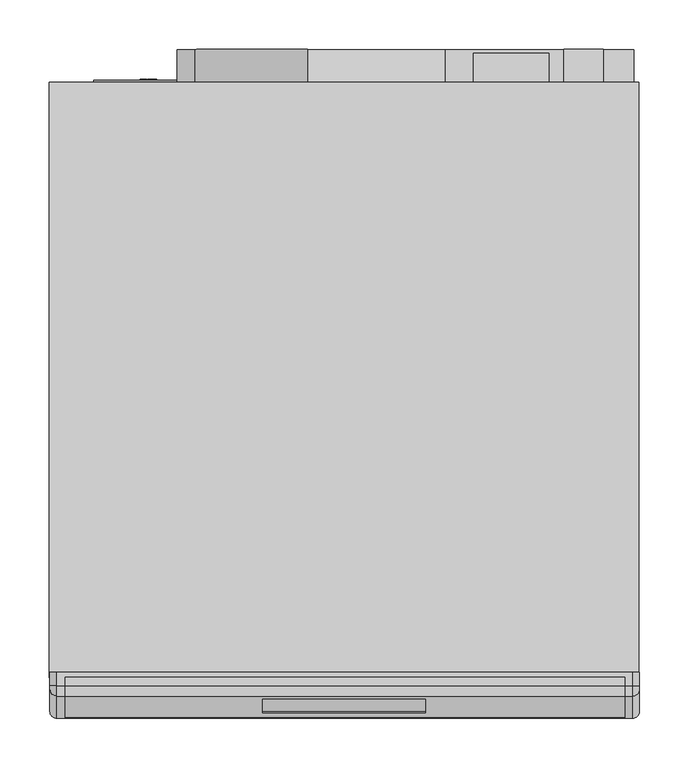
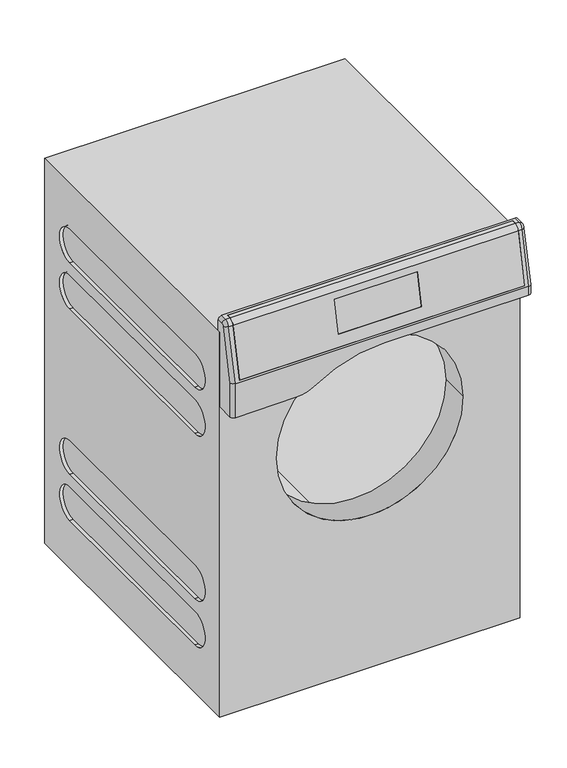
"""IFC4 building model written with IfcOpenShell, lengths in millimetres: proxy geometry, 12752390_B_PDR508ROPEL_LW : 52508362_B_12752390_PDR508ROPEL_LW."""

from ifc_helpers import new_model, si_unit, point, frame, frame_2d, origin, origin_with_axes, place, context, project, spatial, polyline, circle_curve, ellipse_curve, trimmed, segment, composite_curve, outline, extrude, source, transform, mapped, element, save
from ifc_brep_helpers import plane_surface, cylinder_surface, revolved_surface, advanced_brep


def specialty_equipment_5726b327(model_context):
    return source(origin(), model_context, "Body", "SolidModel", [
        advanced_brep(
        [(284.0, -653.5042463, 835.7290958), (284.0, -643.9845398, 843.6465521), (284.0, -635.5, 843.8687276), (284.0, -635.5, 844.8690704), (284.0, -644.0107168, 844.6462094), (284.0, -654.4823939, 835.9370075), (284.0, -676.1497738, 734.0), (284.0, -675.1274332, 734.0), (-282.0, -653.5042463, 835.7290958), (-282.0, -675.1274332, 734.0), (-282.0, -676.1497738, 734.0), (-282.0, -654.4823939, 835.9370075), (-282.0, -644.0107168, 844.6462094), (-282.0, -635.5, 844.8690704), (-282.0, -635.5, 843.8687276), (-282.0, -643.9845398, 843.6465521), (82.5, -657.4447963, 822.0), (82.5, -671.2609728, 757.0), (-82.5, -671.2609728, 757.0), (-82.5, -657.4447963, 822.0), (82.5, -670.2386322, 757.0), (82.5, -656.4224557, 822.0), (-82.5, -656.4224557, 822.0), (-82.5, -670.2386322, 757.0)],
        [
            (0, 1, circle_curve(frame((284.0, -643.7227703, 833.6499789), z_axis=(-1.0, 0.0, 0.0), x_axis=(0.0, 1.0, 0.0)), 10.0)),
            (1, 2),
            (2, 3),
            (3, 4),
            (4, 5, circle_curve(frame((284.0, -643.7227703, 833.6499789), z_axis=(1.0, 0.0, 0.0), x_axis=(0.0, 1.0, 0.0)), 11.0)),
            (5, 6),
            (6, 7),
            (7, 0),
            (8, 9),
            (9, 10),
            (10, 11),
            (11, 12, circle_curve(frame((-282.0, -643.7227703, 833.6499789), z_axis=(-1.0, 0.0, 0.0), x_axis=(0.0, 1.0, 0.0)), 11.0)),
            (12, 13),
            (13, 14),
            (14, 15),
            (15, 8, circle_curve(frame((-282.0, -643.7227703, 833.6499789), z_axis=(1.0, 0.0, 0.0), x_axis=(0.0, 1.0, 0.0)), 10.0)),
            (0, 8),
            (15, 1),
            (14, 2),
            (13, 3),
            (12, 4),
            (11, 5),
            (10, 6),
            (16, 17),
            (17, 18),
            (18, 19),
            (19, 16),
            (9, 7),
            (20, 21),
            (21, 22),
            (22, 23),
            (23, 20),
            (20, 17),
            (16, 21),
            (22, 19),
            (18, 23),
        ],
        [
            plane_surface(frame((284.0, -633.7227703, 833.6499789), z_axis=(1.0, 0.0, 0.0), x_axis=(0.0, 0.0, -1.0))),
            plane_surface(frame((-282.0, -633.7227703, 833.6499789), z_axis=(-1.0, 0.0, 0.0), x_axis=(0.0, 0.0, 1.0))),
            revolved_surface(polyline([(-282.0, -633.7227703, 833.6499789), (284.0, -633.7227703, 833.6499789)]), (-282.0, -643.7227703, 833.6499789), (-1.0, 0.0, 0.0)),
            plane_surface(frame((284.0, -643.9845398, 843.6465521), z_axis=(0.0, 0.026176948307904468, -0.9996573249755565), x_axis=(-1.0, 0.0, 0.0))),
            plane_surface(frame((284.0, -635.5, 843.8687276), z_axis=(0.0, 1.0, 0.0), x_axis=(-1.0, 0.0, 0.0))),
            plane_surface(frame((284.0, -635.5, 844.8690704), z_axis=(0.0, -0.026176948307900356, 0.9996573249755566), x_axis=(-1.0, 0.0, 0.0))),
            cylinder_surface(frame((-282.0, -643.7227703, 833.6499789), z_axis=(1.0, 0.0, 0.0), x_axis=(0.0, 1.0, 0.0)), 11.0),
            plane_surface(frame((284.0, -654.4823939, 835.9370075), z_axis=(0.0, -0.9781476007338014, 0.20791169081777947), x_axis=(-1.0, 0.0, 0.0))),
            plane_surface(frame((284.0, -676.1497738, 734.0), z_axis=(0.0, 0.0, -1.0), x_axis=(-1.0, 0.0, 0.0))),
            plane_surface(frame((284.0, -675.1274332, 734.0), z_axis=(0.0, 0.9781476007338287, -0.20791169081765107), x_axis=(-1.0, 0.0, 0.0))),
            plane_surface(frame((82.5, -657.4447963, 822.0), z_axis=(-1.0, 0.0, 0.0), x_axis=(0.0, -1.0, 0.0))),
            plane_surface(frame((-82.5, -657.4447963, 822.0), z_axis=(1.0, 0.0, 0.0), x_axis=(0.0, 1.0, 0.0))),
            plane_surface(frame((82.5, -656.4224557, 822.0), z_axis=(0.0, 0.0, -1.0), x_axis=(-1.0, 0.0, 0.0))),
            plane_surface(frame((82.5, -671.2609728, 757.0), z_axis=(0.0, 0.0, 1.0), x_axis=(-1.0, 0.0, 0.0))),
        ],
        [
            (0, [[1, 2, 3, 4, 5, 6, 7, 8]]),
            (1, [[9, 10, 11, 12, 13, 14, 15, 16]]),
            (2, [[-1, 17, -16, 18]]),
            (3, [[-2, -18, -15, 19]]),
            (4, [[-3, -19, -14, 20]]),
            (5, [[-4, -20, -13, 21]]),
            (6, [[-5, -21, -12, 22]]),
            (7, [[-6, -22, -11, 23], [24, 25, 26, 27]]),
            (8, [[-7, -23, -10, 28]]),
            (9, [[-8, -28, -9, -17], [29, 30, 31, 32]]),
            (10, [[33, -24, 34, -29]]),
            (11, [[35, -26, 36, -31]]),
            (12, [[-34, -27, -35, -30]]),
            (13, [[-33, -32, -36, -25]]),
        ],
    ),
        advanced_brep(
        [(298.5, -636.0, 815.0), (298.5, -630.5, 815.0), (298.5, -630.5, 837.9976005), (298.5, -643.8274781, 837.6486082), (298.5, -647.6353607, 834.4816256), (298.5, -670.0, 729.2642704), (298.5, -670.0, 712.0), (298.5, -636.0, 712.0), (-297.5, -636.0, 815.0), (-297.5, -636.0, 659.0), (-297.5, -670.0, 659.0), (-297.5, -670.0, 729.2642704), (-297.5, -647.6353607, 834.4816256), (-297.5, -643.8274781, 837.6486082), (-297.5, -630.5, 837.9976005), (-297.5, -630.5, 815.0), (-290.5, -630.5, 845.0), (291.5, -630.5, 845.0), (284.0, -635.5, 844.8690704), (284.0, -644.0107168, 844.6462094), (291.5, -644.0107168, 844.6462094), (-290.5, -644.0107168, 844.6462094), (-282.0, -644.0107168, 844.6462094), (-282.0, -635.5, 844.8690704), (284.0, -654.4823939, 835.9370075), (291.5000074, -654.4823939, 835.9370075), (-282.0, -654.4823939, 835.9370075), (-290.5, -654.4823939, 835.9370075), (284.0, -676.1497738, 734.0), (-282.0, -676.1497738, 734.0), (-290.5, -677.0, 730.0), (291.5, -677.0, 730.0), (-290.5, -677.0, 659.0), (-170.6302935, -677.0, 659.0), (-135.780818, -677.0, 669.5165354), (5.0, -677.0, 712.0), (291.5, -677.0, 712.0), (-170.6302935, -636.0, 659.0), (5.0, -636.0, 712.0), (-135.780818, -636.0, 669.5165354), (284.0, -635.5, 843.8687276), (284.0, -643.9845398, 843.6465521), (284.0, -653.5042463, 835.7290958), (284.0, -675.1274332, 734.0), (-282.0, -675.1274332, 734.0), (-282.0, -653.5042463, 835.7290958), (-282.0, -643.9845398, 843.6465521), (-282.0, -635.5, 843.8687276)],
        [
            (0, 1),
            (1, 2),
            (2, 3),
            (3, 4, circle_curve(frame((298.5, -643.7227703, 833.6499789), z_axis=(1.0, 0.0, 0.0), x_axis=(0.0, -0.02617694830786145, 0.9996573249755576)), 4.0)),
            (4, 5),
            (5, 6),
            (6, 7),
            (7, 0),
            (8, 9),
            (9, 10),
            (10, 11),
            (11, 12),
            (12, 13, circle_curve(frame((-297.5, -643.7227703, 833.6499789), z_axis=(-1.0, 0.0, 0.0), x_axis=(0.0, -0.9781476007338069, 0.20791169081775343)), 4.0)),
            (13, 14),
            (14, 15),
            (15, 8),
            (0, 8),
            (15, 1),
            (14, 16, ellipse_curve(frame((-290.5, -630.5, 837.9976005), z_axis=(0.0, 1.0, 0.0), x_axis=(0.0, 0.0, 0.9999999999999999)), 7.0023995, 7.0)),
            (16, 17),
            (17, 2, ellipse_curve(frame((291.5, -630.5, 837.9976005), z_axis=(0.0, 1.0, 0.0), x_axis=(0.0, 0.0, -1.0)), 7.0023995, 7.0)),
            (18, 19),
            (19, 20),
            (20, 17),
            (16, 21),
            (21, 22),
            (22, 23),
            (23, 18),
            (19, 24, circle_curve(frame((284.0, -643.7227703, 833.6499789), z_axis=(1.0, 0.0, 0.0), x_axis=(0.0, 1.0, 0.0)), 11.0)),
            (24, 25),
            (25, 20, circle_curve(frame((291.5, -643.7227703, 833.6499789), z_axis=(-1.0, 0.0, 0.0), x_axis=(0.0, 1.0, 0.0)), 11.0)),
            (26, 22, circle_curve(frame((-282.0, -643.7227703, 833.6499789), z_axis=(-1.0, 0.0, 0.0), x_axis=(0.0, 1.0, 0.0)), 11.0)),
            (21, 27, circle_curve(frame((-290.5, -643.7227703, 833.6499789), z_axis=(1.0, 0.0, 0.0), x_axis=(0.0, 1.0, 0.0)), 11.0)),
            (27, 26),
            (24, 28),
            (28, 29),
            (29, 26),
            (27, 30),
            (30, 31),
            (31, 25),
            (30, 32),
            (32, 33),
            (33, 34, circle_curve(frame((-170.6302935, -677.0, 722.0), z_axis=(0.0, -1.0, 0.0), x_axis=(1.0, 0.0, 0.0)), 63.0)),
            (34, 35, circle_curve(frame((5.0, -677.0, 457.5), z_axis=(0.0, 1.0, 0.0), x_axis=(1.0, 0.0, 0.0)), 254.5)),
            (35, 36),
            (36, 31),
            (9, 37),
            (37, 33),
            (32, 10, circle_curve(frame((-290.5, -670.0, 659.0), z_axis=(0.0, 0.0, -1.0), x_axis=(0.0, 1.0, 0.0)), 7.0)),
            (7, 38),
            (38, 39, circle_curve(frame((5.0, -636.0, 457.5), z_axis=(0.0, -1.0, 0.0), x_axis=(1.0, 0.0, 0.0)), 254.5)),
            (39, 37, circle_curve(frame((-170.6302935, -636.0, 722.0), z_axis=(0.0, 1.0, 0.0), x_axis=(1.0, 0.0, 0.0)), 63.0)),
            (18, 40),
            (40, 41),
            (41, 42, circle_curve(frame((284.0, -643.7227703, 833.6499789), z_axis=(1.0, 0.0, 0.0), x_axis=(0.0, 1.0, 0.0)), 10.0)),
            (42, 43),
            (43, 28),
            (29, 44),
            (44, 45),
            (45, 46, circle_curve(frame((-282.0, -643.7227703, 833.6499789), z_axis=(-1.0, 0.0, 0.0), x_axis=(0.0, 1.0, 0.0)), 10.0)),
            (46, 47),
            (47, 23),
            (43, 44),
            (42, 45),
            (41, 46),
            (40, 47),
            (30, 11, ellipse_curve(frame((-290.5, -670.0, 729.2642704), z_axis=(0.0, -0.10452846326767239, -0.9945218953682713), x_axis=(0.0, -0.9945218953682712, 0.1045284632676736)), 7.038558, 7.0)),
            (27, 12, circle_curve(frame((-290.5, -647.6353607, 834.4816256), z_axis=(0.0, -0.20791169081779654, -0.9781476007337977), x_axis=(0.0, 0.9781476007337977, -0.20791169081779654)), 7.0)),
            (21, 13, circle_curve(frame((-290.5, -643.8274781, 837.6486082), z_axis=(0.0, -0.9996573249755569, -0.026176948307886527), x_axis=(0.0, 0.026176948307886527, -0.9996573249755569)), 7.0)),
            (20, 3, circle_curve(frame((291.5, -643.8274781, 837.6486082), z_axis=(0.0, 0.9996573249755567, 0.026176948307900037), x_axis=(1.0, 0.0, 0.0)), 7.0)),
            (25, 4, circle_curve(frame((291.5, -647.6353607, 834.4816256), z_axis=(0.0, 0.2079116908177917, 0.9781476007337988), x_axis=(1.0, 0.0, 0.0)), 7.0)),
            (31, 5, ellipse_curve(frame((291.5, -670.0, 729.2642704), z_axis=(0.0, 0.10452846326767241, 0.9945218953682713), x_axis=(0.0, -0.9945218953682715, 0.10452846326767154)), 7.038558, 7.0)),
            (36, 6, circle_curve(frame((291.5, -670.0, 712.0), z_axis=(0.0, 0.0, 1.0), x_axis=(1.0, 0.0, 0.0)), 7.0)),
            (35, 38),
            (34, 39),
        ],
        [
            plane_surface(frame((298.5, -630.5, 815.0), z_axis=(1.0, 0.0, 0.0), x_axis=(0.0, 1.0, 0.0))),
            plane_surface(frame((-297.5, -630.5, 815.0), z_axis=(-1.0, 0.0, 0.0), x_axis=(0.0, -1.0, 0.0))),
            plane_surface(frame((298.5, -636.0, 815.0), z_axis=(0.0, 0.0, -1.0), x_axis=(-1.0, 0.0, 0.0))),
            plane_surface(frame((298.5, -630.5, 815.0), z_axis=(0.0, 1.0, 0.0), x_axis=(-1.0, 0.0, 0.0))),
            plane_surface(frame((298.5, -630.5, 845.0), z_axis=(0.0, -0.026176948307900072, 0.9996573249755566), x_axis=(-1.0, 0.0, 0.0))),
            cylinder_surface(frame((-297.5, -643.7227703, 833.6499789), z_axis=(1.0, 0.0, 0.0), x_axis=(0.0, 1.0, 0.0)), 11.0),
            plane_surface(frame((298.5, -654.4823939, 835.9370075), z_axis=(0.0, -0.9781476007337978, 0.20791169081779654), x_axis=(-1.0, 0.0, 0.0))),
            plane_surface(frame((298.5, -677.0, 730.0), z_axis=(0.0, -1.0, 0.0), x_axis=(-1.0, 0.0, 0.0))),
            plane_surface(frame((298.5, -677.0, 659.0), z_axis=(0.0, 0.0, -1.0), x_axis=(-1.0, 0.0, 0.0))),
            plane_surface(frame((298.5, -636.0, 659.0), z_axis=(0.0, 1.0, 0.0), x_axis=(-1.0, 0.0, 0.0))),
            plane_surface(frame((284.0, -676.1497738, 734.0), z_axis=(-1.0, 0.0, 0.0), x_axis=(0.0, 1.0, 0.0))),
            plane_surface(frame((-282.0, -676.1497738, 734.0), z_axis=(1.0, 0.0, 0.0), x_axis=(0.0, -1.0, 0.0))),
            plane_surface(frame((284.0, -676.1497738, 734.0), z_axis=(0.0, 0.0, 1.0), x_axis=(-1.0, 0.0, 0.0))),
            plane_surface(frame((284.0, -675.1274332, 734.0), z_axis=(0.0, -0.9781476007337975, 0.20791169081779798), x_axis=(-1.0, 0.0, 0.0))),
            cylinder_surface(frame((-282.0, -643.7227703, 833.6499789), z_axis=(-1.0, 0.0, 0.0), x_axis=(0.0, 1.0, 0.0)), 10.0),
            plane_surface(frame((284.0, -643.9845398, 843.6465521), z_axis=(0.0, -0.026176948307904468, 0.9996573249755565), x_axis=(-1.0, 0.0, 0.0))),
            plane_surface(frame((284.0, -635.5, 843.8687276), z_axis=(0.0, -1.0, 0.0), x_axis=(-1.0, 0.0, 0.0))),
            cylinder_surface(frame((-290.5, -670.0, 659.0), z_axis=(0.0, 0.0, 1.0), x_axis=(0.0, 1.0, 0.0)), 7.0),
            cylinder_surface(frame((-290.5, -670.1529668, 728.5446182), z_axis=(0.0, 0.20791169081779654, 0.9781476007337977), x_axis=(0.0, 0.9781476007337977, -0.20791169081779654)), 7.0),
            revolved_surface(trimmed(ellipse_curve(frame((-290.5, -647.6353607, 834.4816256), z_axis=(0.0, -0.2079116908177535, -0.9781476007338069), x_axis=(0.0, 0.9781476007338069, -0.2079116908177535)), 7.0, 7.0), [point((-290.5, -654.4823939, 835.9370075))], [point((-297.5, -647.6353607, 834.4816256))], True, "CARTESIAN"), (-297.5, -643.7227703, 833.6499789), (-1.0, 0.0, 0.0)),
            cylinder_surface(frame((-290.5, -643.8274781, 837.6486082), z_axis=(0.0, 0.9996573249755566, 0.026176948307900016), x_axis=(0.0, 0.026176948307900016, -0.9996573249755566)), 7.0),
            cylinder_surface(frame((291.5, -630.3167614, 838.0023987), z_axis=(0.0, -0.9996573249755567, -0.026176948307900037), x_axis=(1.0, 0.0, 0.0)), 7.0),
            revolved_surface(trimmed(ellipse_curve(frame((291.5, -643.8274781, 837.6486082), z_axis=(0.0, 0.9996573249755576, 0.026176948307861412), x_axis=(1.0, 0.0, 0.0)), 7.0, 7.0), [point((291.5, -644.0107168, 844.6462094))], [point((298.5, -643.8274781, 837.6486082))], True, "CARTESIAN"), (298.5, -643.7227703, 833.6499789), (1.0, 0.0, 0.0)),
            cylinder_surface(frame((291.5, -647.6353607, 834.4816256), z_axis=(0.0, -0.20791169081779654, -0.9781476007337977), x_axis=(1.0, 0.0, 0.0)), 7.0),
            cylinder_surface(frame((291.5, -670.0, 730.0), z_axis=(0.0, 0.0, -1.0), x_axis=(1.0, 0.0, 0.0)), 7.0),
            plane_surface(frame((298.5, -677.0, 712.0), z_axis=(0.0, 0.0, -1.0), x_axis=(0.0, 1.0, 0.0))),
            revolved_surface(polyline([(259.5, -677.0, 457.5), (259.5, -636.0, 457.5)]), (5.0, -636.0, 457.5), (0.0, -1.0, 0.0)),
            cylinder_surface(frame((-170.6302935, -636.0, 722.0), z_axis=(0.0, 1.0, 0.0), x_axis=(1.0, 0.0, 0.0)), 63.0),
        ],
        [
            (0, [[1, 2, 3, 4, 5, 6, 7, 8]]),
            (1, [[9, 10, 11, 12, 13, 14, 15, 16]]),
            (2, [[-1, 17, -16, 18]]),
            (3, [[-18, -15, 19, 20, 21, -2]]),
            (4, [[22, 23, 24, -20, 25, 26, 27, 28]]),
            (5, [[29, 30, 31, -23]]),
            (5, [[32, -26, 33, 34]]),
            (6, [[35, 36, 37, -34, 38, 39, 40, -30]]),
            (7, [[41, 42, 43, 44, 45, 46, -39]]),
            (8, [[-10, 47, 48, -42, 49]]),
            (9, [[-9, -17, -8, 50, 51, 52, -47]]),
            (10, [[53, 54, 55, 56, 57, -35, -29, -22]]),
            (11, [[58, 59, 60, 61, 62, -27, -32, -37]]),
            (12, [[-57, 63, -58, -36]]),
            (13, [[-56, 64, -59, -63]]),
            (14, [[-55, 65, -60, -64]]),
            (15, [[-54, 66, -61, -65]]),
            (16, [[-53, -28, -62, -66]]),
            (17, [[67, -11, -49, -41]]),
            (18, [[-67, -38, 68, -12]]),
            (19, [[-68, -33, 69, -13]]),
            (20, [[-69, -25, -19, -14]]),
            (21, [[70, -3, -21, -24]]),
            (22, [[-70, -31, 71, -4]]),
            (23, [[-71, -40, 72, -5]]),
            (24, [[-72, -46, 73, -6]]),
            (25, [[74, -50, -7, -73, -45]]),
            (26, [[-74, -44, 75, -51]]),
            (27, [[-75, -43, -48, -52]]),
        ],
    ),
        extrude(outline(polyline([(-255.0, -34.0), (-209.0, -34.0), (-209.0, -35.0), (-255.0, -35.0), (-255.0, -34.0)])), frame((0.0, 0.0, 702.0), z_axis=(0.0, 0.0, 1.0), x_axis=(1.0, 0.0, 0.0)), (0.0, 0.0, 1.0), 91.0),
        extrude(outline(polyline([(81.9970141, 205.2110284), (81.9970141, 206.55391), (92.0465116, 202.5369367), (92.0465116, 201.4671972), (82.0001609, 197.4576916), (82.0001609, 198.7850496), (85.139586, 199.9365916), (85.139586, 204.0715681), (81.9970141, 205.2110284)]), holes=[polyline([(86.3975329, 200.3962857), (90.7905211, 202.0029406), (86.3975329, 203.5957875), (86.3975329, 200.3962857)])]), frame((0.0, -32.0, 0.0), z_axis=(0.0, 1.0, 0.0), x_axis=(0.0, 0.0, 1.0)), (0.0, 0.0, 1.0), 1.0),
        extrude(outline(polyline([(92.0465116, 194.8537288), (83.2572828, 194.8537288), (83.2572828, 189.8537288), (82.0001609, 189.8537288), (82.0001609, 196.1151094), (92.0465116, 196.1151094), (92.0465116, 194.8537288)])), frame((0.0, -32.0, 0.0), z_axis=(0.0, 1.0, 0.0), x_axis=(0.0, 0.0, 1.0)), (0.0, 0.0, 1.0), 1.0),
        extrude(outline(polyline([(81.9970141, -190.7889716), (81.9970141, -189.44609), (92.0465116, -193.4630633), (92.0465116, -194.5328028), (82.0001609, -198.5423084), (82.0001609, -197.2149504), (85.139586, -196.0634084), (85.139586, -191.9284319), (81.9970141, -190.7889716)]), holes=[polyline([(86.3975329, -195.6037143), (90.7905211, -193.9970594), (86.3975329, -192.4042125), (86.3975329, -195.6037143)])]), frame((0.0, -32.0, 0.0), z_axis=(0.0, 1.0, 0.0), x_axis=(0.0, 0.0, 1.0)), (0.0, 0.0, 1.0), 1.0),
        extrude(outline(polyline([(92.0465116, -201.1462712), (83.2572828, -201.1462712), (83.2572828, -206.1462712), (82.0001609, -206.1462712), (82.0001609, -199.8848906), (92.0465116, -199.8848906), (92.0465116, -201.1462712)])), frame((0.0, -32.0, 0.0), z_axis=(0.0, 1.0, 0.0), x_axis=(0.0, 0.0, 1.0)), (0.0, 0.0, 1.0), 1.0),
        extrude(outline(composite_curve([segment(trimmed(circle_curve(frame_2d((87.0, 198.0)), 55.25), [point((87.0, 253.25))], [point((87.0, 142.75))], False, "CARTESIAN"), True, "CONTINUOUS"), segment(trimmed(circle_curve(frame_2d((87.0, 198.0)), 55.25), [point((87.0, 142.75))], [point((87.0, 253.25))], False, "CARTESIAN"), True, "CONTINUOUS")], self_intersect=False)), frame((0.0, -34.0, 0.0), z_axis=(0.0, 1.0, 0.0), x_axis=(0.0, 0.0, 1.0)), (0.0, 0.0, 1.0), 2.0),
        extrude(outline(composite_curve([segment(trimmed(circle_curve(frame_2d((87.0, -198.0)), 55.25), [point((87.0, -142.75))], [point((87.0, -253.25))], False, "CARTESIAN"), True, "CONTINUOUS"), segment(trimmed(circle_curve(frame_2d((87.0, -198.0)), 55.25), [point((87.0, -253.25))], [point((87.0, -142.75))], False, "CARTESIAN"), True, "CONTINUOUS")], self_intersect=False)), frame((0.0, -34.0, 0.0), z_axis=(0.0, 1.0, 0.0), x_axis=(0.0, 0.0, 1.0)), (0.0, 0.0, 1.0), 2.0),
        extrude(outline(polyline([(262.0, -1.0), (262.0, -34.0), (222.0, -34.0), (222.0, -1.0), (262.0, -1.0)])), frame((0.0, 0.0, 663.0), z_axis=(0.0, 0.0, 1.0), x_axis=(1.0, 0.0, 0.0)), (0.0, 0.0, 1.0), 102.0),
        extrude(outline(composite_curve([segment(polyline([(16.0012365, 171.8350179), (16.0012365, 173.0926569), (26.0457018, 173.0926569), (26.0457018, 169.2588697)]), True, "CONTINUOUS"), segment(trimmed(circle_curve(frame_2d((23.0634182, 169.2588697)), 2.9822837), [point((26.0457018, 169.2588697))], [point((20.0811345, 169.2588697))], False, "CARTESIAN"), True, "CONTINUOUS"), segment(polyline([(20.0811345, 169.2588697), (20.0811345, 171.8350179), (16.0012365, 171.8350179)]), True, "CONTINUOUS")], self_intersect=False), holes=[composite_curve([segment(trimmed(circle_curve(frame_2d((23.0644309, 169.2588697)), 1.7264899), [point((21.3379411, 169.2588697))], [point((24.7909208, 169.2588697))], True, "CARTESIAN"), True, "CONTINUOUS"), segment(polyline([(24.7909208, 169.2588697), (24.7909208, 171.8350179), (21.3379411, 171.8350179), (21.3379411, 169.2588697)]), True, "CONTINUOUS")], self_intersect=False)]), frame((0.0, -4.0, 0.0), z_axis=(0.0, 1.0, 0.0), x_axis=(0.0, 0.0, 1.0)), (0.0, 0.0, 1.0), 1.0),
        extrude(outline(polyline([(16.0006445, 163.6718375), (16.0006445, 165.0), (26.0451716, 160.9923232), (26.0451716, 159.9218811), (16.0004865, 155.9106116), (16.0004865, 157.2393282), (19.1391224, 158.3892124), (19.1391224, 162.526368), (16.0006445, 163.6718375)]), holes=[polyline([(20.3966781, 158.8483756), (24.7905035, 160.4566766), (20.3966781, 162.0651073), (20.3966781, 158.8483756)])]), frame((0.0, -4.0, 0.0), z_axis=(0.0, 1.0, 0.0), x_axis=(0.0, 0.0, 1.0)), (0.0, 0.0, 1.0), 1.0),
        extrude(outline(composite_curve([segment(trimmed(circle_curve(frame_2d((21.0, 165.0)), 7.5), [point((21.0, 172.5))], [point((21.0, 157.5))], False, "CARTESIAN"), True, "CONTINUOUS"), segment(trimmed(circle_curve(frame_2d((21.0, 165.0)), 7.5), [point((21.0, 157.5))], [point((21.0, 172.5))], False, "CARTESIAN"), True, "CONTINUOUS")], self_intersect=False)), frame((0.0, -34.0, 0.0), z_axis=(0.0, 1.0, 0.0), x_axis=(0.0, 0.0, 1.0)), (0.0, 0.0, 1.0), 30.0),
        extrude(outline(polyline([(164.7566495, -25.4555134), (158.4761766, -25.4555134), (158.4761766, -24.1997667), (163.4981583, -24.1997667), (163.4981583, -15.4081759), (164.7566495, -15.4081759), (164.7566495, -25.4555134)])), frame((0.0, 0.0, 665.0), z_axis=(0.0, 0.0, 1.0), x_axis=(1.0, 0.0, 0.0)), (0.0, 0.0, 1.0), 1.0),
        extrude(outline(polyline([(174.0215267, -15.4081759), (174.0215267, -25.4554669), (166.6392877, -25.4554669), (166.6392877, -24.1995171), (172.7595964, -24.1995171), (172.7595964, -20.9031269), (167.1079823, -20.9031269), (167.1079823, -19.6478177), (172.7596269, -19.6478177), (172.7596269, -16.6653752), (166.7945524, -16.6653752), (166.7945524, -15.4081759), (174.0215267, -15.4081759)])), frame((0.0, 0.0, 665.0), z_axis=(0.0, 0.0, 1.0), x_axis=(1.0, 0.0, 0.0)), (0.0, 0.0, 1.0), 1.0),
        extrude(outline(composite_curve([segment(trimmed(circle_curve(frame_2d((167.0, -20.5)), 7.5), [point((167.0, -13.0))], [point((167.0, -28.0))], False, "CARTESIAN"), True, "CONTINUOUS"), segment(trimmed(circle_curve(frame_2d((167.0, -20.5)), 7.5), [point((167.0, -28.0))], [point((167.0, -13.0))], False, "CARTESIAN"), True, "CONTINUOUS")], self_intersect=False)), frame((0.0, 0.0, 666.0), z_axis=(0.0, 0.0, 1.0), x_axis=(1.0, 0.0, 0.0)), (0.0, 0.0, 1.0), 30.0),
        extrude(outline(polyline([(131.0, -5.0), (207.0, -5.0), (207.0, -34.0), (131.0, -34.0), (131.0, -5.0)])), frame((0.0, 0.0, 696.0), z_axis=(0.0, 0.0, 1.0), x_axis=(1.0, 0.0, 0.0)), (0.0, 0.0, 1.0), 81.0),
        extrude(outline(composite_curve([segment(trimmed(circle_curve(frame_2d((-267.5, -51.0)), 16.0), [point((-251.5, -51.0))], [point((-283.5, -51.0))], False, "CARTESIAN"), True, "CONTINUOUS"), segment(trimmed(circle_curve(frame_2d((-267.5, -51.0)), 16.0), [point((-283.5, -51.0))], [point((-251.5, -51.0))], False, "CARTESIAN"), True, "CONTINUOUS")], self_intersect=False)), origin_with_axes(), (0.0, 0.0, 1.0), 8.0),
        extrude(outline(composite_curve([segment(trimmed(circle_curve(frame_2d((267.5, -51.0)), 16.0), [point((283.5, -51.0))], [point((251.5, -51.0))], False, "CARTESIAN"), True, "CONTINUOUS"), segment(trimmed(circle_curve(frame_2d((267.5, -51.0)), 16.0), [point((251.5, -51.0))], [point((283.5, -51.0))], False, "CARTESIAN"), True, "CONTINUOUS")], self_intersect=False)), origin_with_axes(), (0.0, 0.0, 1.0), 8.0),
        extrude(outline(composite_curve([segment(trimmed(circle_curve(frame_2d((267.5, -597.0)), 16.0), [point((283.5, -597.0))], [point((251.5, -597.0))], False, "CARTESIAN"), True, "CONTINUOUS"), segment(trimmed(circle_curve(frame_2d((267.5, -597.0)), 16.0), [point((251.5, -597.0))], [point((283.5, -597.0))], False, "CARTESIAN"), True, "CONTINUOUS")], self_intersect=False)), origin_with_axes(), (0.0, 0.0, 1.0), 8.0),
        extrude(outline(composite_curve([segment(trimmed(circle_curve(frame_2d((-267.5, -597.0)), 16.0), [point((-251.5, -597.0))], [point((-283.5, -597.0))], False, "CARTESIAN"), True, "CONTINUOUS"), segment(trimmed(circle_curve(frame_2d((-267.5, -597.0)), 16.0), [point((-283.5, -597.0))], [point((-251.5, -597.0))], False, "CARTESIAN"), True, "CONTINUOUS")], self_intersect=False)), origin_with_axes(), (0.0, 0.0, 1.0), 8.0),
        advanced_brep(
        [(-185.0, -578.5, 512.0), (-185.0, -636.0, 512.0), (185.0, -636.0, 512.0), (185.0, -578.5, 512.0), (298.0, -34.0, 815.0), (298.0, -34.0, 8.0), (-298.0, -34.0, 8.0), (-298.0, -34.0, 815.0), (-209.0, -34.0, 793.0), (-255.0, -34.0, 793.0), (-255.0, -34.0, 702.0), (-209.0, -34.0, 702.0), (298.0, -636.0, 815.0), (-298.0, -636.0, 815.0), (-298.0, -636.0, 8.0), (298.0, -636.0, 8.0), (298.0, -551.0, 649.0), (298.0, -551.0, 719.0), (298.0, -121.0, 719.0), (298.0, -121.0, 649.0), (298.0, -551.0, 552.0), (298.0, -551.0, 622.0), (298.0, -121.0, 622.0), (298.0, -121.0, 552.0), (298.0, -551.0, 205.5), (298.0, -551.0, 275.5), (298.0, -121.0, 275.5), (298.0, -121.0, 205.5), (298.0, -551.0, 108.5), (298.0, -551.0, 178.5), (298.0, -121.0, 178.5), (298.0, -121.0, 108.5), (-298.0, -551.0, 719.0), (-298.0, -551.0, 649.0), (-298.0, -121.0, 649.0), (-298.0, -121.0, 719.0), (-298.0, -551.0, 622.0), (-298.0, -551.0, 552.0), (-298.0, -121.0, 552.0), (-298.0, -121.0, 622.0), (-298.0, -551.0, 275.5), (-298.0, -551.0, 205.5), (-298.0, -121.0, 205.5), (-298.0, -121.0, 275.5), (-298.0, -551.0, 178.5), (-298.0, -551.0, 108.5), (-298.0, -121.0, 108.5), (-298.0, -121.0, 178.5), (291.0, -551.0, 719.0), (291.0, -551.0, 649.0), (291.0, -121.0, 649.0), (291.0, -121.0, 719.0), (291.0, -551.0, 622.0), (291.0, -551.0, 552.0), (291.0, -121.0, 552.0), (291.0, -121.0, 622.0), (291.0, -551.0, 275.5), (291.0, -551.0, 205.5), (291.0, -121.0, 205.5), (291.0, -121.0, 275.5), (291.0, -551.0, 178.5), (291.0, -551.0, 108.5), (291.0, -121.0, 108.5), (291.0, -121.0, 178.5), (-291.0, -551.0, 719.0), (-291.0, -121.0, 719.0), (-291.0, -121.0, 649.0), (-291.0, -551.0, 649.0), (-291.0, -551.0, 622.0), (-291.0, -121.0, 622.0), (-291.0, -121.0, 552.0), (-291.0, -551.0, 552.0), (-291.0, -551.0, 275.5), (-291.0, -121.0, 275.5), (-291.0, -121.0, 205.5), (-291.0, -551.0, 205.5), (-291.0, -551.0, 178.5), (-291.0, -121.0, 178.5), (-291.0, -121.0, 108.5), (-291.0, -551.0, 108.5), (0.0, -56.0, 229.0), (0.0, -56.0, 795.0), (-209.0, -56.0, 702.8088048), (-209.0, -56.0, 702.0), (-209.7355478, -56.0, 702.0), (0.0, -578.5, 229.0), (0.0, -578.5, 795.0), (-209.7355478, -151.0, 702.0), (-209.0, -151.0, 702.8088048), (-255.0, -151.0, 793.0), (-209.0, -151.0, 793.0), (-255.0, -151.0, 702.0)],
        [
            (0, 1),
            (1, 2, circle_curve(frame((0.0, -636.0, 512.0), z_axis=(0.0, -1.0, 0.0), x_axis=(-1.0, 0.0, 0.0)), 185.0)),
            (2, 3),
            (3, 0, circle_curve(frame((0.0, -578.5, 512.0), z_axis=(0.0, 1.0, 0.0), x_axis=(-1.0, 0.0, 0.0)), 185.0)),
            (0, 3, circle_curve(frame((0.0, -578.5, 512.0), z_axis=(0.0, 1.0, 0.0), x_axis=(-1.0, 0.0, 0.0)), 185.0)),
            (2, 1, circle_curve(frame((0.0, -636.0, 512.0), z_axis=(0.0, -1.0, 0.0), x_axis=(-1.0, 0.0, 0.0)), 185.0)),
            (4, 5),
            (5, 6),
            (6, 7),
            (7, 4),
            (8, 9),
            (9, 10),
            (10, 11),
            (11, 8),
            (12, 13),
            (13, 14),
            (14, 15),
            (15, 12),
            (4, 12),
            (15, 5),
            (16, 17, circle_curve(frame((298.0, -551.0, 684.0), z_axis=(-1.0, 0.0, 0.0), x_axis=(0.0, 1.0, 0.0)), 35.0)),
            (17, 18),
            (18, 19, circle_curve(frame((298.0, -121.0, 684.0), z_axis=(-1.0, 0.0, 0.0), x_axis=(0.0, 1.0, 0.0)), 35.0)),
            (19, 16),
            (20, 21, circle_curve(frame((298.0, -551.0, 587.0), z_axis=(-1.0, 0.0, 0.0), x_axis=(0.0, 1.0, 0.0)), 35.0)),
            (21, 22),
            (22, 23, circle_curve(frame((298.0, -121.0, 587.0), z_axis=(-1.0, 0.0, 0.0), x_axis=(0.0, 1.0, 0.0)), 35.0)),
            (23, 20),
            (24, 25, circle_curve(frame((298.0, -551.0, 240.5), z_axis=(-1.0, 0.0, 0.0), x_axis=(0.0, 1.0, 0.0)), 35.0)),
            (25, 26),
            (26, 27, circle_curve(frame((298.0, -121.0, 240.5), z_axis=(-1.0, 0.0, 0.0), x_axis=(0.0, 1.0, 0.0)), 35.0)),
            (27, 24),
            (28, 29, circle_curve(frame((298.0, -551.0, 143.5), z_axis=(-1.0, 0.0, 0.0), x_axis=(0.0, 1.0, 0.0)), 35.0)),
            (29, 30),
            (30, 31, circle_curve(frame((298.0, -121.0, 143.5), z_axis=(-1.0, 0.0, 0.0), x_axis=(0.0, 1.0, 0.0)), 35.0)),
            (31, 28),
            (14, 6),
            (13, 7),
            (32, 33, circle_curve(frame((-298.0, -551.0, 684.0), z_axis=(1.0, 0.0, 0.0), x_axis=(0.0, 1.0, 0.0)), 35.0)),
            (33, 34),
            (34, 35, circle_curve(frame((-298.0, -121.0, 684.0), z_axis=(1.0, 0.0, 0.0), x_axis=(0.0, 1.0, 0.0)), 35.0)),
            (35, 32),
            (36, 37, circle_curve(frame((-298.0, -551.0, 587.0), z_axis=(1.0, 0.0, 0.0), x_axis=(0.0, 1.0, 0.0)), 35.0)),
            (37, 38),
            (38, 39, circle_curve(frame((-298.0, -121.0, 587.0), z_axis=(1.0, 0.0, 0.0), x_axis=(0.0, 1.0, 0.0)), 35.0)),
            (39, 36),
            (40, 41, circle_curve(frame((-298.0, -551.0, 240.5), z_axis=(1.0, 0.0, 0.0), x_axis=(0.0, 1.0, 0.0)), 35.0)),
            (41, 42),
            (42, 43, circle_curve(frame((-298.0, -121.0, 240.5), z_axis=(1.0, 0.0, 0.0), x_axis=(0.0, 1.0, 0.0)), 35.0)),
            (43, 40),
            (44, 45, circle_curve(frame((-298.0, -551.0, 143.5), z_axis=(1.0, 0.0, 0.0), x_axis=(0.0, 1.0, 0.0)), 35.0)),
            (45, 46),
            (46, 47, circle_curve(frame((-298.0, -121.0, 143.5), z_axis=(1.0, 0.0, 0.0), x_axis=(0.0, 1.0, 0.0)), 35.0)),
            (47, 44),
            (48, 49, circle_curve(frame((291.0, -551.0, 684.0), z_axis=(1.0, 0.0, 0.0), x_axis=(0.0, 1.0, 0.0)), 35.0)),
            (49, 50),
            (50, 51, circle_curve(frame((291.0, -121.0, 684.0), z_axis=(1.0, 0.0, 0.0), x_axis=(0.0, 1.0, 0.0)), 35.0)),
            (51, 48),
            (52, 53, circle_curve(frame((291.0, -551.0, 587.0), z_axis=(1.0, 0.0, 0.0), x_axis=(0.0, 1.0, 0.0)), 35.0)),
            (53, 54),
            (54, 55, circle_curve(frame((291.0, -121.0, 587.0), z_axis=(1.0, 0.0, 0.0), x_axis=(0.0, 1.0, 0.0)), 35.0)),
            (55, 52),
            (56, 57, circle_curve(frame((291.0, -551.0, 240.5), z_axis=(1.0, 0.0, 0.0), x_axis=(0.0, 1.0, 0.0)), 35.0)),
            (57, 58),
            (58, 59, circle_curve(frame((291.0, -121.0, 240.5), z_axis=(1.0, 0.0, 0.0), x_axis=(0.0, 1.0, 0.0)), 35.0)),
            (59, 56),
            (60, 61, circle_curve(frame((291.0, -551.0, 143.5), z_axis=(1.0, 0.0, 0.0), x_axis=(0.0, 1.0, 0.0)), 35.0)),
            (61, 62),
            (62, 63, circle_curve(frame((291.0, -121.0, 143.5), z_axis=(1.0, 0.0, 0.0), x_axis=(0.0, 1.0, 0.0)), 35.0)),
            (63, 60),
            (48, 17),
            (16, 49),
            (19, 50),
            (18, 51),
            (52, 21),
            (20, 53),
            (23, 54),
            (22, 55),
            (56, 25),
            (24, 57),
            (27, 58),
            (26, 59),
            (60, 29),
            (28, 61),
            (31, 62),
            (30, 63),
            (64, 65),
            (65, 66, circle_curve(frame((-291.0, -121.0, 684.0), z_axis=(-1.0, 0.0, 0.0), x_axis=(0.0, 1.0, 0.0)), 35.0)),
            (66, 67),
            (67, 64, circle_curve(frame((-291.0, -551.0, 684.0), z_axis=(-1.0, 0.0, 0.0), x_axis=(0.0, 1.0, 0.0)), 35.0)),
            (68, 69),
            (69, 70, circle_curve(frame((-291.0, -121.0, 587.0), z_axis=(-1.0, 0.0, 0.0), x_axis=(0.0, 1.0, 0.0)), 35.0)),
            (70, 71),
            (71, 68, circle_curve(frame((-291.0, -551.0, 587.0), z_axis=(-1.0, 0.0, 0.0), x_axis=(0.0, 1.0, 0.0)), 35.0)),
            (72, 73),
            (73, 74, circle_curve(frame((-291.0, -121.0, 240.5), z_axis=(-1.0, 0.0, 0.0), x_axis=(0.0, 1.0, 0.0)), 35.0)),
            (74, 75),
            (75, 72, circle_curve(frame((-291.0, -551.0, 240.5), z_axis=(-1.0, 0.0, 0.0), x_axis=(0.0, 1.0, 0.0)), 35.0)),
            (76, 77),
            (77, 78, circle_curve(frame((-291.0, -121.0, 143.5), z_axis=(-1.0, 0.0, 0.0), x_axis=(0.0, 1.0, 0.0)), 35.0)),
            (78, 79),
            (79, 76, circle_curve(frame((-291.0, -551.0, 143.5), z_axis=(-1.0, 0.0, 0.0), x_axis=(0.0, 1.0, 0.0)), 35.0)),
            (67, 33),
            (32, 64),
            (66, 34),
            (65, 35),
            (71, 37),
            (36, 68),
            (70, 38),
            (69, 39),
            (75, 41),
            (40, 72),
            (74, 42),
            (73, 43),
            (79, 45),
            (44, 76),
            (78, 46),
            (77, 47),
            (80, 81, circle_curve(frame((0.0, -56.0, 512.0), z_axis=(0.0, -1.0, 0.0), x_axis=(0.0, 0.0, 1.0)), 283.0)),
            (81, 82, circle_curve(frame((0.0, -56.0, 512.0), z_axis=(0.0, -1.0, 0.0), x_axis=(0.0, 0.0, 1.0)), 283.0)),
            (82, 83),
            (83, 84),
            (84, 80, circle_curve(frame((0.0, -56.0, 512.0), z_axis=(0.0, -1.0, 0.0), x_axis=(0.0, 0.0, 1.0)), 283.0)),
            (85, 86, circle_curve(frame((0.0, -578.5, 512.0), z_axis=(0.0, 1.0, 0.0), x_axis=(0.0, 0.0, 1.0)), 283.0)),
            (86, 85, circle_curve(frame((0.0, -578.5, 512.0), z_axis=(0.0, 1.0, 0.0), x_axis=(0.0, 0.0, 1.0)), 283.0)),
            (80, 85),
            (86, 81),
            (84, 87),
            (87, 88, circle_curve(frame((0.0, -151.0, 512.0), z_axis=(0.0, 1.0, 0.0), x_axis=(0.0, 0.0, 1.0)), 283.0)),
            (88, 82),
            (89, 90),
            (90, 88),
            (87, 91),
            (91, 89),
            (89, 9),
            (8, 90),
            (11, 83),
            (10, 91),
        ],
        [
            revolved_surface(polyline([(-185.0, -578.5, 512.0), (-185.0, -636.0, 512.0)]), (0.0, -636.0, 512.0), (0.0, 1.0, 0.0)),
            plane_surface(frame((298.0, -34.0, 815.0), z_axis=(0.0, 1.0, 0.0), x_axis=(0.0, 0.0, -1.0))),
            plane_surface(frame((298.0, -636.0, 815.0), z_axis=(0.0, -1.0, 0.0), x_axis=(0.0, 0.0, 1.0))),
            plane_surface(frame((298.0, -34.0, 815.0), z_axis=(1.0, 0.0, 0.0), x_axis=(0.0, -1.0, 0.0))),
            plane_surface(frame((298.0, -34.0, 8.0), z_axis=(0.0, 0.0, -1.0), x_axis=(0.0, -1.0, 0.0))),
            plane_surface(frame((-298.0, -34.0, 8.0), z_axis=(-1.0, 0.0, 0.0), x_axis=(0.0, -1.0, 0.0))),
            plane_surface(frame((-298.0, -34.0, 815.0), z_axis=(0.0, 0.0, 1.0), x_axis=(0.0, -1.0, 0.0))),
            plane_surface(frame((291.0, -516.0, 684.0), z_axis=(1.0, 0.0, 0.0), x_axis=(0.0, 0.0, -1.0))),
            revolved_surface(polyline([(298.0, -516.0, 684.0), (291.0, -516.0, 684.0)]), (291.0, -551.0, 684.0), (1.0, 0.0, 0.0)),
            plane_surface(frame((298.0, -551.0, 649.0), z_axis=(0.0, 0.0, 1.0), x_axis=(-1.0, 0.0, 0.0))),
            revolved_surface(polyline([(298.0, -86.0, 684.0), (291.0, -86.0, 684.0)]), (291.0, -121.0, 684.0), (1.0, 0.0, 0.0)),
            plane_surface(frame((298.0, -121.0, 719.0), z_axis=(0.0, 0.0, -1.0), x_axis=(-1.0, 0.0, 0.0))),
            revolved_surface(polyline([(298.0, -516.0, 587.0), (291.0, -516.0, 587.0)]), (298.0, -551.0, 587.0), (1.0, 0.0, 0.0)),
            plane_surface(frame((298.0, -551.0, 552.0), z_axis=(0.0, 0.0, 1.0), x_axis=(-1.0, 0.0, 0.0))),
            revolved_surface(polyline([(298.0, -86.0, 587.0), (291.0, -86.0, 587.0)]), (298.0, -121.0, 587.0), (1.0, 0.0, 0.0)),
            plane_surface(frame((298.0, -121.0, 622.0), z_axis=(0.0, 0.0, -1.0), x_axis=(-1.0, 0.0, 0.0))),
            revolved_surface(polyline([(298.0, -516.0, 240.5), (291.0, -516.0, 240.5)]), (298.0, -551.0, 240.5), (1.0, 0.0, 0.0)),
            plane_surface(frame((298.0, -551.0, 205.5), z_axis=(0.0, 0.0, 1.0), x_axis=(-1.0, 0.0, 0.0))),
            revolved_surface(polyline([(298.0, -86.0, 240.5), (291.0, -86.0, 240.5)]), (298.0, -121.0, 240.5), (1.0, 0.0, 0.0)),
            plane_surface(frame((298.0, -121.0, 275.5), z_axis=(0.0, 0.0, -1.0), x_axis=(-1.0, 0.0, 0.0))),
            revolved_surface(polyline([(298.0, -516.0, 143.5), (291.0, -516.0, 143.5)]), (298.0, -551.0, 143.5), (1.0, 0.0, 0.0)),
            plane_surface(frame((298.0, -551.0, 108.5), z_axis=(0.0, 0.0, 1.0), x_axis=(-1.0, 0.0, 0.0))),
            revolved_surface(polyline([(298.0, -86.0, 143.5), (291.0, -86.0, 143.5)]), (298.0, -121.0, 143.5), (1.0, 0.0, 0.0)),
            plane_surface(frame((298.0, -121.0, 178.5), z_axis=(0.0, 0.0, -1.0), x_axis=(-1.0, 0.0, 0.0))),
            plane_surface(frame((-291.0, -516.0, 684.0), z_axis=(-1.0, 0.0, 0.0), x_axis=(0.0, 0.0, 1.0))),
            revolved_surface(polyline([(-291.0, -516.0, 684.0), (-298.0, -516.0, 684.0)]), (-298.0, -551.0, 684.0), (1.0, 0.0, 0.0)),
            plane_surface(frame((-291.0, -551.0, 649.0), z_axis=(0.0, 0.0, 1.0), x_axis=(-1.0, 0.0, 0.0))),
            revolved_surface(polyline([(-291.0, -86.0, 684.0), (-298.0, -86.0, 684.0)]), (-298.0, -121.0, 684.0), (1.0, 0.0, 0.0)),
            plane_surface(frame((-291.0, -121.0, 719.0), z_axis=(0.0, 0.0, -1.0), x_axis=(-1.0, 0.0, 0.0))),
            revolved_surface(polyline([(-291.0, -516.0, 587.0), (-298.0, -516.0, 587.0)]), (-298.0, -551.0, 587.0), (1.0, 0.0, 0.0)),
            plane_surface(frame((-291.0, -551.0, 552.0), z_axis=(0.0, 0.0, 1.0), x_axis=(-1.0, 0.0, 0.0))),
            revolved_surface(polyline([(-291.0, -86.0, 587.0), (-298.0, -86.0, 587.0)]), (-298.0, -121.0, 587.0), (1.0, 0.0, 0.0)),
            plane_surface(frame((-291.0, -121.0, 622.0), z_axis=(0.0, 0.0, -1.0), x_axis=(-1.0, 0.0, 0.0))),
            revolved_surface(polyline([(-291.0, -516.0, 240.5), (-298.0, -516.0, 240.5)]), (-298.0, -551.0, 240.5), (1.0, 0.0, 0.0)),
            plane_surface(frame((-291.0, -551.0, 205.5), z_axis=(0.0, 0.0, 1.0), x_axis=(-1.0, 0.0, 0.0))),
            revolved_surface(polyline([(-291.0, -86.0, 240.5), (-298.0, -86.0, 240.5)]), (-298.0, -121.0, 240.5), (1.0, 0.0, 0.0)),
            plane_surface(frame((-291.0, -121.0, 275.5), z_axis=(0.0, 0.0, -1.0), x_axis=(-1.0, 0.0, 0.0))),
            revolved_surface(polyline([(-291.0, -516.0, 143.5), (-298.0, -516.0, 143.5)]), (-298.0, -551.0, 143.5), (1.0, 0.0, 0.0)),
            plane_surface(frame((-291.0, -551.0, 108.5), z_axis=(0.0, 0.0, 1.0), x_axis=(-1.0, 0.0, 0.0))),
            revolved_surface(polyline([(-291.0, -86.0, 143.5), (-298.0, -86.0, 143.5)]), (-298.0, -121.0, 143.5), (1.0, 0.0, 0.0)),
            plane_surface(frame((-291.0, -121.0, 178.5), z_axis=(0.0, 0.0, -1.0), x_axis=(-1.0, 0.0, 0.0))),
            plane_surface(frame((0.0, -56.0, 795.0), z_axis=(0.0, -1.0, 0.0), x_axis=(1.0, 0.0, 0.0))),
            plane_surface(frame((0.0, -578.5, 795.0), z_axis=(0.0, 1.0, 0.0), x_axis=(-1.0, 0.0, 0.0))),
            revolved_surface(polyline([(0.0, -578.5, 795.0), (0.0, -56.0, 795.0)]), (0.0, -56.0, 512.0), (0.0, -1.0, 0.0)),
            plane_surface(frame((-209.0, -151.0, 793.0), z_axis=(0.0, 1.0, 0.0), x_axis=(-1.0, 0.0, 0.0))),
            plane_surface(frame((-255.0, -34.0, 793.0), z_axis=(0.0, 0.0, -1.0), x_axis=(0.0, -1.0, 0.0))),
            plane_surface(frame((-209.0, -34.0, 793.0), z_axis=(-1.0, 0.0, 0.0), x_axis=(0.0, -1.0, 0.0))),
            plane_surface(frame((-209.0, -34.0, 702.0), z_axis=(0.0, 0.0, 1.0), x_axis=(0.0, -1.0, 0.0))),
            plane_surface(frame((-255.0, -34.0, 702.0), z_axis=(1.0, 0.0, 0.0), x_axis=(0.0, -1.0, 0.0))),
        ],
        [
            (0, [[1, 2, 3, 4]]),
            (0, [[-1, 5, -3, 6]]),
            (1, [[7, 8, 9, 10], [11, 12, 13, 14]]),
            (2, [[15, 16, 17, 18], [-2, -6]]),
            (3, [[-7, 19, -18, 20], [21, 22, 23, 24], [25, 26, 27, 28], [29, 30, 31, 32], [33, 34, 35, 36]]),
            (4, [[-8, -20, -17, 37]]),
            (5, [[-9, -37, -16, 38], [39, 40, 41, 42], [43, 44, 45, 46], [47, 48, 49, 50], [51, 52, 53, 54]]),
            (6, [[-10, -38, -15, -19]]),
            (7, [[55, 56, 57, 58]]),
            (7, [[59, 60, 61, 62]]),
            (7, [[63, 64, 65, 66]]),
            (7, [[67, 68, 69, 70]]),
            (8, [[-55, 71, -21, 72]]),
            (9, [[-56, -72, -24, 73]]),
            (10, [[-57, -73, -23, 74]]),
            (11, [[-58, -74, -22, -71]]),
            (12, [[-59, 75, -25, 76]]),
            (13, [[-60, -76, -28, 77]]),
            (14, [[-61, -77, -27, 78]]),
            (15, [[-62, -78, -26, -75]]),
            (16, [[-63, 79, -29, 80]]),
            (17, [[-64, -80, -32, 81]]),
            (18, [[-65, -81, -31, 82]]),
            (19, [[-66, -82, -30, -79]]),
            (20, [[-67, 83, -33, 84]]),
            (21, [[-68, -84, -36, 85]]),
            (22, [[-69, -85, -35, 86]]),
            (23, [[-70, -86, -34, -83]]),
            (24, [[87, 88, 89, 90]]),
            (24, [[91, 92, 93, 94]]),
            (24, [[95, 96, 97, 98]]),
            (24, [[99, 100, 101, 102]]),
            (25, [[-90, 103, -39, 104]]),
            (26, [[-89, 105, -40, -103]]),
            (27, [[-88, 106, -41, -105]]),
            (28, [[-87, -104, -42, -106]]),
            (29, [[-94, 107, -43, 108]]),
            (30, [[-93, 109, -44, -107]]),
            (31, [[-92, 110, -45, -109]]),
            (32, [[-91, -108, -46, -110]]),
            (33, [[-98, 111, -47, 112]]),
            (34, [[-97, 113, -48, -111]]),
            (35, [[-96, 114, -49, -113]]),
            (36, [[-95, -112, -50, -114]]),
            (37, [[-102, 115, -51, 116]]),
            (38, [[-101, 117, -52, -115]]),
            (39, [[-100, 118, -53, -117]]),
            (40, [[-99, -116, -54, -118]]),
            (41, [[119, 120, 121, 122, 123]]),
            (42, [[124, 125], [-4, -5]]),
            (43, [[-119, 126, -125, 127]]),
            (43, [[-124, -126, -123, 128, 129, 130, -120, -127]]),
            (44, [[131, 132, -129, 133, 134]]),
            (45, [[-131, 135, -11, 136]]),
            (46, [[-136, -14, 137, -121, -130, -132]]),
            (47, [[138, -133, -128, -122, -137, -13]]),
            (48, [[-134, -138, -12, -135]]),
        ],
    ),
        extrude(outline(composite_curve([segment(polyline([(98.0, 22.0), (218.0, 292.8415415), (648.7318108, 102.0), (750.1057931, -37.0)]), True, "CONTINUOUS"), segment(trimmed(circle_curve(frame_2d((691.972157, -79.3973971)), 71.951782), [point((750.1057931, -37.0))], [point((696.0, -151.2363518))], False, "CARTESIAN"), True, "CONTINUOUS"), segment(polyline([(696.0, -151.2363518), (527.0, -169.0), (98.0, 22.0)]), True, "CONTINUOUS")], self_intersect=False)), frame((0.0, -34.0, 0.0), z_axis=(0.0, 1.0, 0.0), x_axis=(0.0, 0.0, 1.0)), (0.0, 0.0, 1.0), 33.0),
    ])


if __name__ == "__main__":
    model = new_model("IFC4")
    model_context = context("Model", 3, world=origin())
    ifc_project = project(units=[si_unit("LENGTHUNIT", "METRE", prefix="MILLI")], contexts=[model_context])
    site = spatial("IfcSite", under=ifc_project)
    building = spatial("IfcBuilding", under=site)
    placement = place(None, origin())
    specialty_equipment_shape = specialty_equipment_5726b327(model_context)
    element("IfcBuildingElementProxy", 1, Name="12752390_B_PDR508ROPEL_LW : 52508362_B_12752390_PDR508ROPEL_LW", ObjectType="12752390_B_PDR508ROPEL_LW : 52508362_B_12752390_PDR508ROPEL_LW", at=placement, inside=building, context=model_context, shape_type="MappedRepresentation", body=[
        mapped(specialty_equipment_shape, transform((0.0, 0.0, 0.0), x_axis=(1.0, 0.0, 0.0), y_axis=(0.0, 1.0, 0.0), z_axis=(0.0, 0.0, 1.0))),
    ])
    save(model, "model.ifc")
